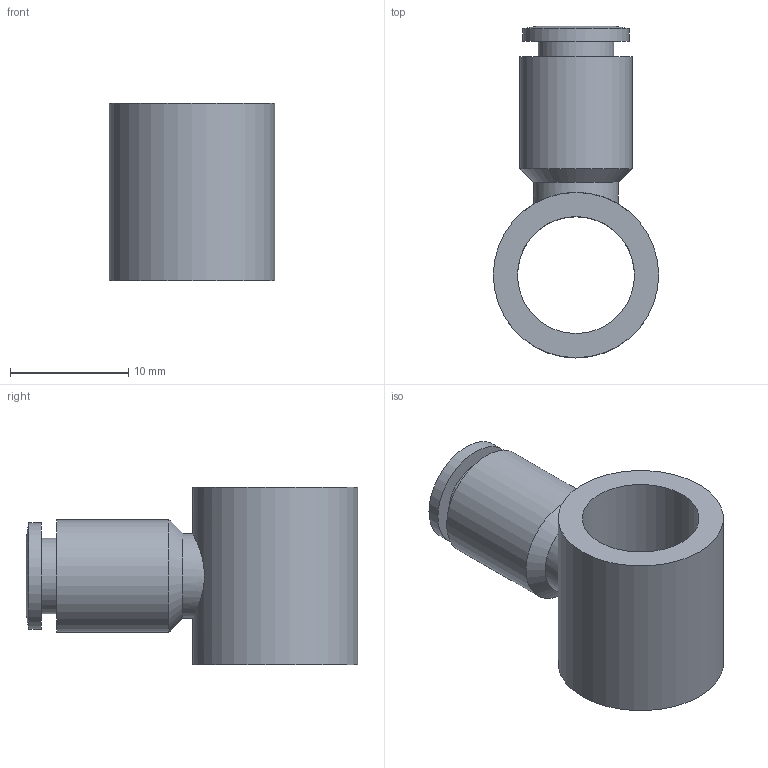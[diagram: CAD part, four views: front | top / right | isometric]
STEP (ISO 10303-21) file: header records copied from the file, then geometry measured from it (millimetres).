
FILE_DESCRIPTION((''),'2;1');
FILE_NAME('C:\Documents and Settings\rivolro1\Documenti\copia di Raccordi\PLASTICA\T13XXXX\T130418.stp','2007-10-30T17:36:56',('Rivolro1'),(''),'Autodesk Inventor 2008','Autodesk Inventor 2008','');
FILE_SCHEMA(('AUTOMOTIVE_DESIGN { 1 0 10303 214 1 1 1 1 }'));
Length unit declared in the file: millimetre
Products named in the file (1): T130418
Bounding box: 14 x 28.1 x 15 mm (x, y, z)
Volume: 1842.6 mm3; surface area: 1984 mm2
Topology: 1 solids, 1 shells, 16 faces, 27 edges, 17 vertices
Faces by surface type: cylinder 6, plane 5, bspline 3, cone 2
Full cylindrical faces by diameter (mm): 6.4 x1, 7.2 x1, 9 x1, 9.5 x1, 9.9 x1, 14 x1
Entity records: 522 total; most frequent: CARTESIAN_POINT 205, DIRECTION 58, ORIENTED_EDGE 34, EDGE_LOOP 34, AXIS2_PLACEMENT_3D 29, FACE_BOUND 18, VERTEX_POINT 17, EDGE_CURVE 17
